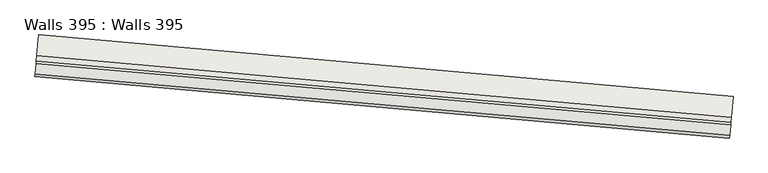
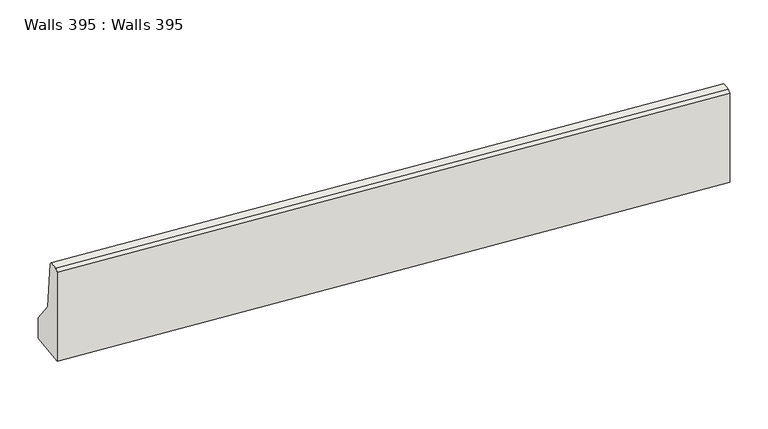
"""IFC4 building model written with IfcOpenShell, lengths in millimetres: wall geometry, Walls 395 : Walls 395."""

from ifc_helpers import new_model, si_unit, frame, origin, place, context, project, spatial, polyline, outline, extrude, source, transform, mapped, element, save


def walls_395_walls_395_6ff30202(model_context):
    return source(origin(), model_context, "Body", "SweptSolid", [
        extrude(outline(polyline([(638180.0, 400.0000001), (638430.0, 200.0), (638935.0, 150.0), (638960.0, 125.0), (638960.0, 25.0), (638935.0, 0.0), (637960.0, 0.0), (637960.0, 400.0000001), (638180.0, 400.0000001)])), frame((-588360.9583951, -426664.1472498, 0.0), z_axis=(-0.9960550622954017, 0.08873732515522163, 0.0), x_axis=(0.0, 0.0, 1.0)), (0.0, 0.0, 1.0), 6649.9999999),
    ])


if __name__ == "__main__":
    model = new_model("IFC4")
    model_context = context("Model", 3, world=origin())
    ifc_project = project(units=[si_unit("LENGTHUNIT", "METRE", prefix="MILLI")], contexts=[model_context])
    site = spatial("IfcSite", under=ifc_project)
    building = spatial("IfcBuilding", under=site)
    placement = place(None, origin())
    walls_395_walls_395_shape = walls_395_walls_395_6ff30202(model_context)
    element("IfcWall", 1, ObjectType="Walls 395 : Walls 395", at=placement, inside=building, context=model_context, shape_type="MappedRepresentation", body=[
        mapped(walls_395_walls_395_shape, transform((0.0, 0.0, 0.0), x_axis=(1.0, 0.0, 0.0), y_axis=(0.0, 1.0, 0.0), z_axis=(0.0, 0.0, 1.0))),
    ])
    save(model, "model.ifc")
